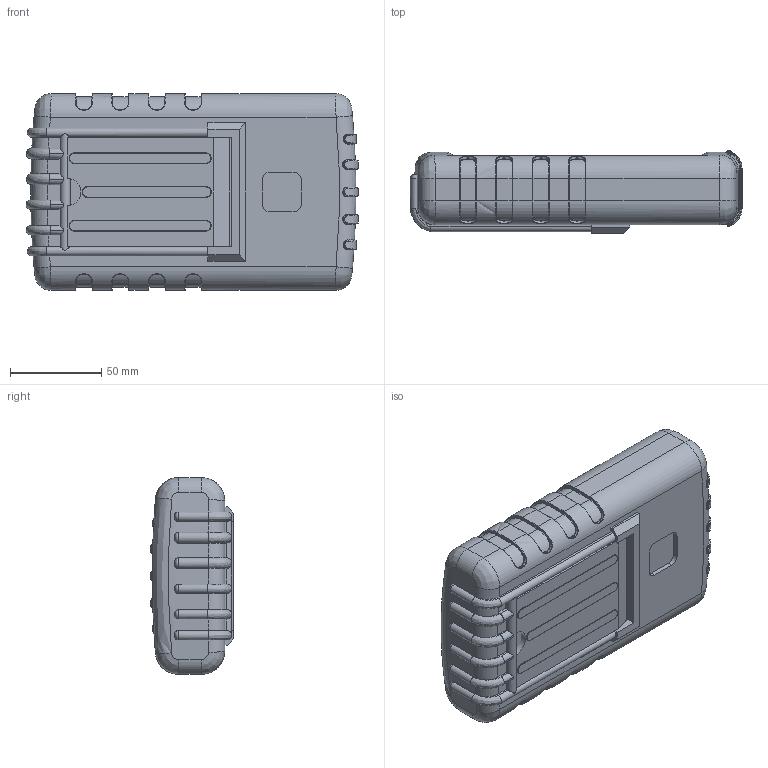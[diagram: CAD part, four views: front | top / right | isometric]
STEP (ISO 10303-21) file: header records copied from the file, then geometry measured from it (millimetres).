
FILE_DESCRIPTION (( 'STEP AP214' ), '1' );
FILE_NAME ('90-43-29V-F-BO.STEP', '2020-10-04T16:34:40', ( 'Rudy' ), ( '' ), 'SwSTEP 2.0', 'SolidWorks 2014', '' );
FILE_SCHEMA (( 'AUTOMOTIVE_DESIGN' ));
Length unit declared in the file: millimetre
Products named in the file (8): 90 RBT; RT 90 stand; 90 PCB 29V-4AA; 90-Top Flush; 29V door; 90-29V; 90-43-29V-F-BO
Assembly tree (7 placements, depth 3):
  90-43-29V-F-BO
    90-29V
    29V door
    90-Top Flush
    90 PCB 29V-4AA
    90 RBT
      90 RBT
      RT 90 stand
Bounding box: 182.05 x 45.61 x 108 mm (x, y, z)
Volume: 367158.6 mm3; surface area: 207563.7 mm2
Topology: 6 solids, 6 shells, 1370 faces, 3556 edges, 2213 vertices
Faces by surface type: plane 596, cylinder 410, bspline 180, torus 120, cone 46, sphere 18
Entity records: 53919 total; most frequent: CARTESIAN_POINT 21177, ORIENTED_EDGE 7076, DIRECTION 6507, EDGE_CURVE 3538, AXIS2_PLACEMENT_3D 2285, VERTEX_POINT 2205, VECTOR 1937, LINE 1937
